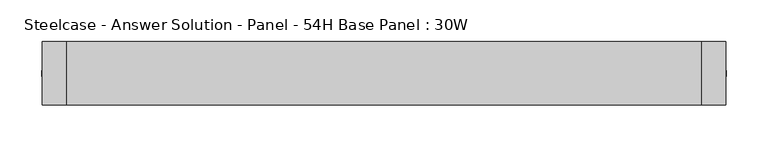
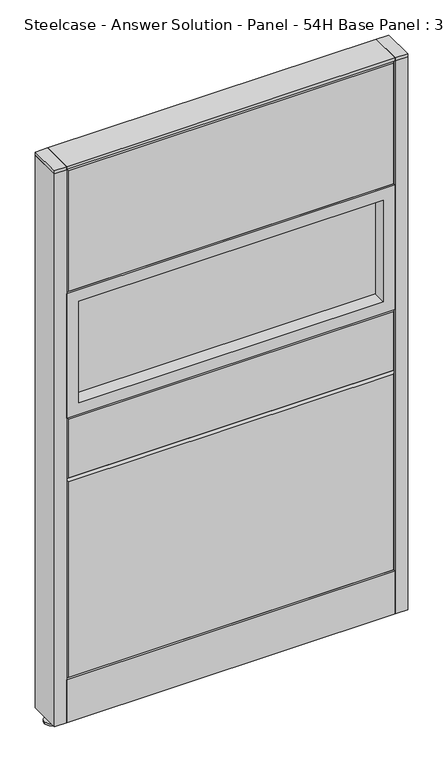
"""IFC4 building model written with IfcOpenShell, lengths in millimetres: furniture geometry, Steelcase - Answer Solution - Panel - 54H Base Panel : 30W."""

import ifcopenshell
import ifcopenshell.guid

model = None  # the IFC model being written
_history = None  # IfcOwnerHistory: only IFC2X3 demands one
_inside = {}  # id of a spatial element -> (the spatial element, [elements in it])
_under = {}  # id of a project, library or spatial element -> (it, [spatial elements below it])
_declared = {}  # id of a project -> (the project, [libraries it declares])
_typed = {}  # id of a type object -> (the type object, [elements of that type])
_made_of = {}  # id of a material, layer set ... -> (it, [elements and type objects made of it])


def new_model(schema):
    """Start an empty IFC model of exactly this schema.

    Asked for "IFC4X3", IfcOpenShell would pick the latest addendum, in which some entities
    have other attributes; the version numbers below select the first issue.
    IFC2X3 requires an IfcOwnerHistory on every rooted entity: one is made here for all.
    """
    global model, _history
    if schema == "IFC4X3":
        model = ifcopenshell.file(schema_version=(4, 3, 0, 0))
    else:
        model = ifcopenshell.file(schema=schema)
    _inside.clear()
    _under.clear()
    _declared.clear()
    _typed.clear()
    _made_of.clear()
    _history = None
    if model.schema == "IFC2X3":
        org = make("IfcOrganization", Name="unknown")
        user = make(
            "IfcPersonAndOrganization",
            ThePerson=make("IfcPerson", FamilyName="unknown"),
            TheOrganization=org,
        )
        app = make(
            "IfcApplication",
            ApplicationDeveloper=org,
            Version="unknown",
            ApplicationFullName="unknown",
            ApplicationIdentifier="unknown",
        )
        _history = make(
            "IfcOwnerHistory",
            OwningUser=user,
            OwningApplication=app,
            ChangeAction="ADDED",
            CreationDate=0,
        )
    return model


def make(cls, **values):
    """One entity of the class cls with the attributes given. An attribute that is None is left unset."""
    return model.create_entity(
        cls, **{name: value for name, value in values.items() if value is not None}
    )


def rooted(cls, **values):
    """An entity with a GlobalId (a new one), such as an element, a storey or a relation."""
    return make(cls, GlobalId=ifcopenshell.guid.new(), OwnerHistory=_history, **values)


def si_unit(unit_type, name, prefix=None):
    """IfcSIUnit, for example si_unit("LENGTHUNIT", "METRE", prefix="MILLI")."""
    return make("IfcSIUnit", UnitType=unit_type, Prefix=prefix, Name=name)


def assignment(units):
    """IfcUnitAssignment: the units of a project."""
    return None if units is None else make("IfcUnitAssignment", Units=units)


def point(xyz):
    """IfcCartesianPoint."""
    return None if xyz is None else make("IfcCartesianPoint", Coordinates=xyz)


def direction(xyz):
    """IfcDirection."""
    return None if xyz is None else make("IfcDirection", DirectionRatios=xyz)


def frame(location, z_axis=None, x_axis=None):
    """IfcAxis2Placement3D, a coordinate frame: its origin and axes. An axis left out is left unset."""
    return make(
        "IfcAxis2Placement3D",
        Location=point(location),
        Axis=direction(z_axis),
        RefDirection=direction(x_axis),
    )


def frame_2d(location, x_axis=None):
    """IfcAxis2Placement2D, a coordinate frame in the plane: its origin and x axis."""
    return make(
        "IfcAxis2Placement2D", Location=point(location), RefDirection=direction(x_axis)
    )


def origin():
    """The frame at (0, 0, 0) with its axes left unset."""
    return frame((0.0, 0.0, 0.0))


def place(relative_to, where):
    """IfcLocalPlacement: puts the frame where relative to a parent placement (None: the world)."""
    return make(
        "IfcLocalPlacement", PlacementRelTo=relative_to, RelativePlacement=where
    )


def context(
    kind, dimensions, precision=None, world=None, true_north=None, identifier=None
):
    """IfcGeometricRepresentationContext, for example the 3D "Model" context."""
    return make(
        "IfcGeometricRepresentationContext",
        ContextIdentifier=identifier,
        ContextType=kind,
        CoordinateSpaceDimension=dimensions,
        Precision=precision,
        WorldCoordinateSystem=world,
        TrueNorth=true_north,
    )


def project(units=None, contexts=None):
    """IfcProject with its units and contexts."""
    return rooted(
        "IfcProject",
        Name="project",
        RepresentationContexts=contexts,
        UnitsInContext=assignment(units),
    )


def spatial(cls, under=None, at=None, **own):
    """A site, building, storey or space (cls), placed at a placement, below another one or the project."""
    s = rooted(cls, ObjectPlacement=at, **own)
    if under is not None:
        _under.setdefault(under.id(), (under, []))[1].append(s)
    return s


def polyline(points):
    """IfcPolyline through the points."""
    return make("IfcPolyline", Points=[point(p) for p in points])


def circle_curve(where, radius):
    """IfcCircle in the frame where."""
    return make("IfcCircle", Position=where, Radius=radius)


def trimmed(basis, trim1, trim2, sense, master):
    """IfcTrimmedCurve: the piece of a basis curve between two trims."""
    return make(
        "IfcTrimmedCurve",
        BasisCurve=basis,
        Trim1=trim1,
        Trim2=trim2,
        SenseAgreement=sense,
        MasterRepresentation=master,
    )


def segment(curve, same_sense, transition):
    """IfcCompositeCurveSegment."""
    return make(
        "IfcCompositeCurveSegment",
        Transition=transition,
        SameSense=same_sense,
        ParentCurve=curve,
    )


def composite_curve(segments, self_intersect=None):
    """IfcCompositeCurve: segments joined end to end."""
    return make("IfcCompositeCurve", Segments=segments, SelfIntersect=self_intersect)


def outline(outer, holes=None, kind="AREA"):
    """IfcArbitraryClosedProfileDef: a profile drawn as a closed curve; with holes, ...WithVoids."""
    if holes is None:
        return make("IfcArbitraryClosedProfileDef", ProfileType=kind, OuterCurve=outer)
    return make(
        "IfcArbitraryProfileDefWithVoids",
        ProfileType=kind,
        OuterCurve=outer,
        InnerCurves=holes,
    )


def extrude(swept, where, along, depth):
    """IfcExtrudedAreaSolid: the profile swept, set in the frame where, extruded along a direction by depth."""
    return make(
        "IfcExtrudedAreaSolid",
        SweptArea=swept,
        Position=where,
        ExtrudedDirection=direction(along),
        Depth=depth,
    )


def faces_of(points, faces, orient=None, outer=None):
    """IfcFace entities. A face is a list of loops; a loop is a list of indices into points, from 0.

    orient and outer hold one flag for each loop. By default every Orientation is true, the
    first loop of a face is its IfcFaceOuterBound and the others are IfcFaceBound.
    """
    made = []
    for i, loops in enumerate(faces):
        bounds = []
        for j, loop in enumerate(loops):
            is_outer = j == 0 if outer is None else outer[i][j]
            bounds.append(
                make(
                    "IfcFaceOuterBound" if is_outer else "IfcFaceBound",
                    Bound=make("IfcPolyLoop", Polygon=[points[k] for k in loop]),
                    Orientation=True if orient is None else orient[i][j],
                )
            )
        made.append(make("IfcFace", Bounds=bounds))
    return made


def faceted_brep(points, faces, orient=None, outer=None, voids=None):
    """IfcFacetedBrep: a solid bounded by flat faces; with voids (closed shells), ...WithVoids."""
    shared = [point(p) for p in points]
    hull = make("IfcClosedShell", CfsFaces=faces_of(shared, faces, orient, outer))
    if voids is None:
        return make("IfcFacetedBrep", Outer=hull)
    return make(
        "IfcFacetedBrepWithVoids",
        Outer=hull,
        Voids=[
            make(cls, CfsFaces=faces_of(shared, fs, o, b)) for cls, fs, o, b in voids
        ],
    )


def shape(context_of_items, identifier, shape_type, items):
    """IfcShapeRepresentation: the items that make up one representation, for example the "Body"."""
    return make(
        "IfcShapeRepresentation",
        ContextOfItems=context_of_items,
        RepresentationIdentifier=identifier,
        RepresentationType=shape_type,
        Items=items,
    )


def source(mapping_origin, context_of_items, identifier, shape_type, items):
    """IfcRepresentationMap: a shape defined once, which mapped items show again and again."""
    return make(
        "IfcRepresentationMap",
        MappingOrigin=mapping_origin,
        MappedRepresentation=shape(context_of_items, identifier, shape_type, items),
    )


def transform(
    local_origin,
    x_axis=None,
    y_axis=None,
    z_axis=None,
    scale=None,
    scale2=None,
    scale3=None,
    uniform=True,
):
    """IfcCartesianTransformationOperator3D, or its non-uniform kind. x_axis, y_axis, z_axis: its Axis1, 2, 3."""
    if uniform:
        return make(
            "IfcCartesianTransformationOperator3D",
            Axis1=direction(x_axis),
            Axis2=direction(y_axis),
            LocalOrigin=point(local_origin),
            Scale=scale,
            Axis3=direction(z_axis),
        )
    return make(
        "IfcCartesianTransformationOperator3DnonUniform",
        Axis1=direction(x_axis),
        Axis2=direction(y_axis),
        LocalOrigin=point(local_origin),
        Scale=scale,
        Axis3=direction(z_axis),
        Scale2=scale2,
        Scale3=scale3,
    )


def mapped(mapping_source, mapping_target):
    """IfcMappedItem: shows the shape of a source again, moved by a transform."""
    return make(
        "IfcMappedItem", MappingSource=mapping_source, MappingTarget=mapping_target
    )


def made_of(thing, what):
    """Note that an element or type object is made of a material, layer set ...; save() writes the relation."""
    if what is not None:
        _made_of.setdefault(what.id(), (what, []))[1].append(thing)
    return thing


def element(
    cls,
    number,
    at=None,
    inside=None,
    cuts=None,
    type_object=None,
    material=None,
    context=None,
    identifier="Body",
    shape_type=None,
    held_by="IfcProductDefinitionShape",
    body=None,
    shapes=None,
    **own,
):
    """One element of the class cls, such as IfcWall. Its Tag is "e" and its number.

    at: its placement. inside: the storey or other place that contains it. cuts: it is an
    opening in that element (IfcRelVoidsElement). A single representation is given by context,
    identifier, shape_type and body (its items); several are given by shapes. held_by: the class
    of the entity that holds the representations. save() writes the other relations.
    """
    e = rooted(cls, Tag="e%d" % number, ObjectPlacement=at, **own)
    if body is not None:
        shapes = [shape(context, identifier, shape_type, body)]
    if shapes is not None:
        e.Representation = make(held_by, Representations=shapes)
    if inside is not None:
        _inside.setdefault(inside.id(), (inside, []))[1].append(e)
    if cuts is not None:
        rooted(
            "IfcRelVoidsElement", RelatingBuildingElement=cuts, RelatedOpeningElement=e
        )
    if type_object is not None:
        _typed.setdefault(type_object.id(), (type_object, []))[1].append(e)
    return made_of(e, material)


def aggregate(whole, parts):
    """IfcRelAggregates: a whole, such as a stair, and the parts it consists of."""
    return rooted("IfcRelAggregates", RelatingObject=whole, RelatedObjects=parts)


def save(model, path):
    """Write the relations noted so far, then the file.

    IfcRelAggregates (storeys below a building ...), IfcRelContainedInSpatialStructure (elements
    in a storey), IfcRelDefinesByType, IfcRelAssociatesMaterial and IfcRelDeclares: one each for
    every whole, place, type object, material and project.
    """
    for whole, parts in _under.values():
        aggregate(whole, parts)
    for where, things in _inside.values():
        rooted(
            "IfcRelContainedInSpatialStructure",
            RelatedElements=things,
            RelatingStructure=where,
        )
    for kind, things in _typed.values():
        rooted("IfcRelDefinesByType", RelatedObjects=things, RelatingType=kind)
    for what, things in _made_of.values():
        rooted("IfcRelAssociatesMaterial", RelatedObjects=things, RelatingMaterial=what)
    for by, libraries in _declared.values():
        rooted("IfcRelDeclares", RelatingContext=by, RelatedDefinitions=libraries)
    model.write(path)


def steelcase_answer_solution_panel_54h_base_panel_30w_5ee76f36(model_context):
    return source(origin(), model_context, "Body", "SolidModel", [
        extrude(outline(composite_curve([segment(trimmed(circle_curve(frame_2d((395.224, 0.0320214)), 5.08), [point((400.304, 0.0320214))], [point((390.144, 0.0320214))], False, "CARTESIAN"), True, "CONTINUOUS"), segment(trimmed(circle_curve(frame_2d((395.224, 0.0320214)), 5.08), [point((390.144, 0.0320214))], [point((400.304, 0.0320214))], False, "CARTESIAN"), True, "CONTINUOUS")], self_intersect=False)), frame((0.0, 0.0, 5.0799671), z_axis=(0.0, 0.0, 1.0), x_axis=(1.0, 0.0, 0.0)), (0.0, 0.0, 1.0), 10.414),
        extrude(outline(composite_curve([segment(trimmed(circle_curve(frame_2d((395.224, 0.0320214)), 15.24), [point((410.464, 0.0320214))], [point((379.984, 0.0320214))], False, "CARTESIAN"), True, "CONTINUOUS"), segment(trimmed(circle_curve(frame_2d((395.224, 0.0320214)), 15.24), [point((379.984, 0.0320214))], [point((410.464, 0.0320214))], False, "CARTESIAN"), True, "CONTINUOUS")], self_intersect=False)), frame((0.0, 0.0, -3.29e-05), z_axis=(0.0, 0.0, 1.0), x_axis=(1.0, 0.0, 0.0)), (0.0, 0.0, 1.0), 5.08),
        extrude(outline(polyline([(409.575, 38.1320408), (409.575, -38.0679592), (381.0, -38.0679592), (381.0, 38.1320408), (409.575, 38.1320408)])), frame((0.0, 0.0, 1370.6348), z_axis=(0.0, 0.0, 1.0), x_axis=(1.0, 0.0, 0.0)), (0.0, 0.0, 1.0), 7.3151671),
        extrude(outline(polyline([(409.575, 38.1320408), (409.575, -38.0679592), (381.0, -38.0679592), (381.0, 38.1320408), (409.575, 38.1320408)])), frame((0.0, 0.0, 15.4939671), z_axis=(0.0, 0.0, 1.0), x_axis=(1.0, 0.0, 0.0)), (0.0, 0.0, 1.0), 1355.1408329),
        extrude(outline(composite_curve([segment(trimmed(circle_curve(frame_2d((-395.224, 0.0320214)), 5.08), [point((-400.304, 0.0320214))], [point((-390.144, 0.0320214))], False, "CARTESIAN"), True, "CONTINUOUS"), segment(trimmed(circle_curve(frame_2d((-395.224, 0.0320214)), 5.08), [point((-390.144, 0.0320214))], [point((-400.304, 0.0320214))], False, "CARTESIAN"), True, "CONTINUOUS")], self_intersect=False)), frame((0.0, 0.0, 5.0799671), z_axis=(0.0, 0.0, 1.0), x_axis=(1.0, 0.0, 0.0)), (0.0, 0.0, 1.0), 10.414),
        extrude(outline(composite_curve([segment(trimmed(circle_curve(frame_2d((-395.224, 0.0320214)), 15.24), [point((-410.464, 0.0320214))], [point((-379.984, 0.0320214))], False, "CARTESIAN"), True, "CONTINUOUS"), segment(trimmed(circle_curve(frame_2d((-395.224, 0.0320214)), 15.24), [point((-379.984, 0.0320214))], [point((-410.464, 0.0320214))], False, "CARTESIAN"), True, "CONTINUOUS")], self_intersect=False)), frame((0.0, 0.0, -3.29e-05), z_axis=(0.0, 0.0, 1.0), x_axis=(1.0, 0.0, 0.0)), (0.0, 0.0, 1.0), 5.08),
        extrude(outline(polyline([(-409.575, 38.1320408), (-381.0, 38.1320408), (-381.0, -38.0679592), (-409.575, -38.0679592), (-409.575, 38.1320408)])), frame((0.0, 0.0, 1370.6348), z_axis=(0.0, 0.0, 1.0), x_axis=(1.0, 0.0, 0.0)), (0.0, 0.0, 1.0), 7.3151671),
        extrude(outline(polyline([(-409.575, 38.1320408), (-381.0, 38.1320408), (-381.0, -38.0679592), (-409.575, -38.0679592), (-409.575, 38.1320408)])), frame((0.0, 0.0, 15.4939671), z_axis=(0.0, 0.0, 1.0), x_axis=(1.0, 0.0, 0.0)), (0.0, 0.0, 1.0), 1355.1408329),
        extrude(outline(polyline([(-353.06, 6.346049), (353.06, 6.346049), (353.06, -6.353951), (-353.06, -6.353951), (-353.06, 6.346049)])), frame((0.0, 0.0, 789.94), z_axis=(0.0, 0.0, 1.0), x_axis=(1.0, 0.0, 0.0)), (0.0, 0.0, 1.0), 248.92),
        extrude(outline(polyline([(1066.8, -381.0), (762.0, -381.0), (762.0, 381.0), (1066.8, 381.0), (1066.8, -381.0)]), holes=[polyline([(1038.86, -353.06), (1038.86, 353.06), (789.94, 353.06), (789.94, -353.06), (1038.86, -353.06)])]), frame((0.0, -38.103951, 0.0), z_axis=(0.0, 1.0, 0.0), x_axis=(0.0, 0.0, 1.0)), (0.0, 0.0, 1.0), 76.2),
        faceted_brep([(-376.174, 38.1635011, 1366.774), (376.174, 38.1635011, 1366.774), (376.174, 38.1635011, 1071.626), (-376.174, 38.1635011, 1071.626), (-381.0, 33.3375011, 1371.6), (-381.0, 33.3375011, 1066.8), (381.0, 33.3375011, 1066.8), (381.0, 33.3375011, 1371.6)], [[[0, 1, 2, 3]], [[4, 5, 6, 7]], [[4, 7, 1, 0]], [[7, 6, 2, 1]], [[6, 5, 3, 2]], [[5, 4, 0, 3]]]),
        faceted_brep([(-376.174, 38.1635011, 757.174), (376.174, 38.1635011, 757.174), (376.174, 38.1635011, 614.426), (-376.174, 38.1635011, 614.426), (-381.0, 33.3375011, 762.0), (-381.0, 33.3375011, 609.6), (381.0, 33.3375011, 609.6), (381.0, 33.3375011, 762.0)], [[[0, 1, 2, 3]], [[4, 5, 6, 7]], [[4, 7, 1, 0]], [[7, 6, 2, 1]], [[6, 5, 3, 2]], [[5, 4, 0, 3]]]),
        faceted_brep([(-376.174, 38.1635011, 604.774), (376.174, 38.1635011, 604.774), (376.174, 38.1635011, 125.476), (-376.174, 38.1635011, 125.476), (-381.0, 33.3375011, 609.6), (-381.0, 33.3375011, 120.65), (381.0, 33.3375011, 120.65), (381.0, 33.3375011, 609.6)], [[[0, 1, 2, 3]], [[4, 5, 6, 7]], [[4, 7, 1, 0]], [[7, 6, 2, 1]], [[6, 5, 3, 2]], [[5, 4, 0, 3]]]),
        extrude(outline(polyline([(353.06, -6.346049), (-353.06, -6.346049), (-353.06, 6.353951), (353.06, 6.353951), (353.06, -6.346049)])), frame((0.0, 0.0, 789.94), z_axis=(0.0, 0.0, 1.0), x_axis=(1.0, 0.0, 0.0)), (0.0, 0.0, 1.0), 248.92),
        extrude(outline(polyline([(1066.8, 381.0), (1066.8, -381.0), (762.0, -381.0), (762.0, 381.0), (1066.8, 381.0)]), holes=[polyline([(1038.86, 353.06), (789.94, 353.06), (789.94, -353.06), (1038.86, -353.06), (1038.86, 353.06)])]), frame((0.0, -38.096049, 0.0), z_axis=(0.0, 1.0, 0.0), x_axis=(0.0, 0.0, 1.0)), (0.0, 0.0, 1.0), 76.2),
        faceted_brep([(376.174, -38.1635011, 1366.774), (-376.174, -38.1635011, 1366.774), (-376.174, -38.1635011, 1071.626), (376.174, -38.1635011, 1071.626), (381.0, -33.3375011, 1371.6), (381.0, -33.3375011, 1066.8), (-381.0, -33.3375011, 1066.8), (-381.0, -33.3375011, 1371.6)], [[[0, 1, 2, 3]], [[4, 5, 6, 7]], [[4, 7, 1, 0]], [[7, 6, 2, 1]], [[6, 5, 3, 2]], [[5, 4, 0, 3]]]),
        faceted_brep([(376.174, -38.1635011, 757.174), (-376.174, -38.1635011, 757.174), (-376.174, -38.1635011, 614.426), (376.174, -38.1635011, 614.426), (381.0, -33.3375011, 762.0), (381.0, -33.3375011, 609.6), (-381.0, -33.3375011, 609.6), (-381.0, -33.3375011, 762.0)], [[[0, 1, 2, 3]], [[4, 5, 6, 7]], [[4, 7, 1, 0]], [[7, 6, 2, 1]], [[6, 5, 3, 2]], [[5, 4, 0, 3]]]),
        faceted_brep([(376.174, -38.1635011, 604.774), (-376.174, -38.1635011, 604.774), (-376.174, -38.1635011, 125.476), (376.174, -38.1635011, 125.476), (381.0, -33.3375011, 609.6), (381.0, -33.3375011, 120.65), (-381.0, -33.3375011, 120.65), (-381.0, -33.3375011, 609.6)], [[[0, 1, 2, 3]], [[4, 5, 6, 7]], [[4, 7, 1, 0]], [[7, 6, 2, 1]], [[6, 5, 3, 2]], [[5, 4, 0, 3]]]),
        extrude(outline(polyline([(381.0, 38.1000194), (381.0, -38.1000194), (-381.0, -38.1000194), (-381.0, 38.1000194), (381.0, 38.1000194)])), frame((0.0, 0.0, 1371.6), z_axis=(0.0, 0.0, 1.0), x_axis=(1.0, 0.0, 0.0)), (0.0, 0.0, 1.0), 6.35),
        extrude(outline(polyline([(25.4000011, 119.8575157), (25.4000011, 120.65), (38.1000194, 120.65), (38.1000194, 15.494), (37.3075215, 15.494), (37.3075215, 119.8575157), (25.4000011, 119.8575157)])), frame((-381.0, 0.0, 0.0), z_axis=(1.0, 0.0, 0.0), x_axis=(0.0, 1.0, 0.0)), (0.0, 0.0, 1.0), 762.0),
        extrude(outline(polyline([(-25.4000011, 119.8575157), (-37.3075215, 119.8575157), (-37.3075215, 15.494), (-38.1000194, 15.494), (-38.1000194, 120.65), (-25.4000011, 120.65), (-25.4000011, 119.8575157)])), frame((-381.0, 0.0, 0.0), z_axis=(1.0, 0.0, 0.0), x_axis=(0.0, 1.0, 0.0)), (0.0, 0.0, 1.0), 762.0),
    ])


if __name__ == "__main__":
    model = new_model("IFC4")
    model_context = context("Model", 3, world=origin())
    ifc_project = project(units=[si_unit("LENGTHUNIT", "METRE", prefix="MILLI")], contexts=[model_context])
    site = spatial("IfcSite", under=ifc_project)
    building = spatial("IfcBuilding", under=site)
    placement = place(None, origin())
    steelcase_answer_solution_panel_54h_base_panel_30w_shape = steelcase_answer_solution_panel_54h_base_panel_30w_5ee76f36(model_context)
    element("IfcFurniture", 1, ObjectType="Steelcase - Answer Solution - Panel - 54H Base Panel : 30W", at=placement, inside=building, context=model_context, shape_type="MappedRepresentation", body=[
        mapped(steelcase_answer_solution_panel_54h_base_panel_30w_shape, transform((0.0, 0.0, 0.0), x_axis=(1.0, 0.0, 0.0), y_axis=(0.0, 1.0, 0.0), z_axis=(0.0, 0.0, 1.0))),
    ])
    save(model, "model.ifc")
